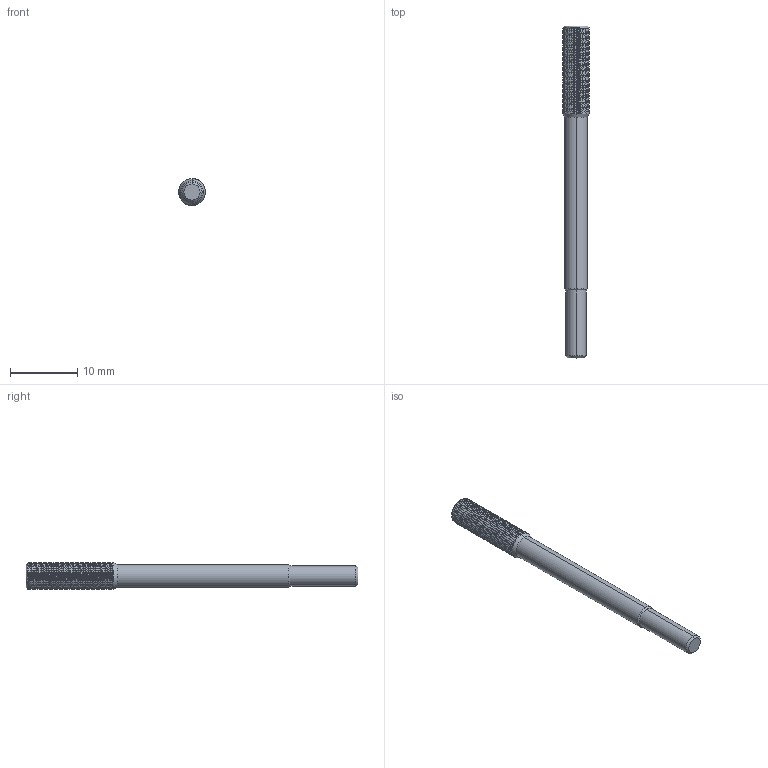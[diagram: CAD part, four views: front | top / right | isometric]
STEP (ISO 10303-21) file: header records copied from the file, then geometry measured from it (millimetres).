
FILE_DESCRIPTION (( 'STEP AP214' ), '1' );
FILE_NAME ('7.STEP', '2024-10-22T06:59:36', ( '' ), ( '' ), 'SwSTEP 2.0', 'SolidWorks 2024', '' );
FILE_SCHEMA (( 'AUTOMOTIVE_DESIGN' ));
Length unit declared in the file: millimetre
Products named in the file (1): 7
Bounding box: 4 x 49.3 x 4 mm (x, y, z)
Volume: 454.6 mm3; surface area: 661 mm2
Topology: 1 solids, 1 shells, 135 faces, 372 edges, 240 vertices
Faces by surface type: cylinder 107, cone 14, plane 11, bspline 3
Entity records: 10152 total; most frequent: CARTESIAN_POINT 7350, ORIENTED_EDGE 744, DIRECTION 435, EDGE_CURVE 372, VERTEX_POINT 240, AXIS2_PLACEMENT_3D 154, EDGE_LOOP 136, FACE_OUTER_BOUND 135
